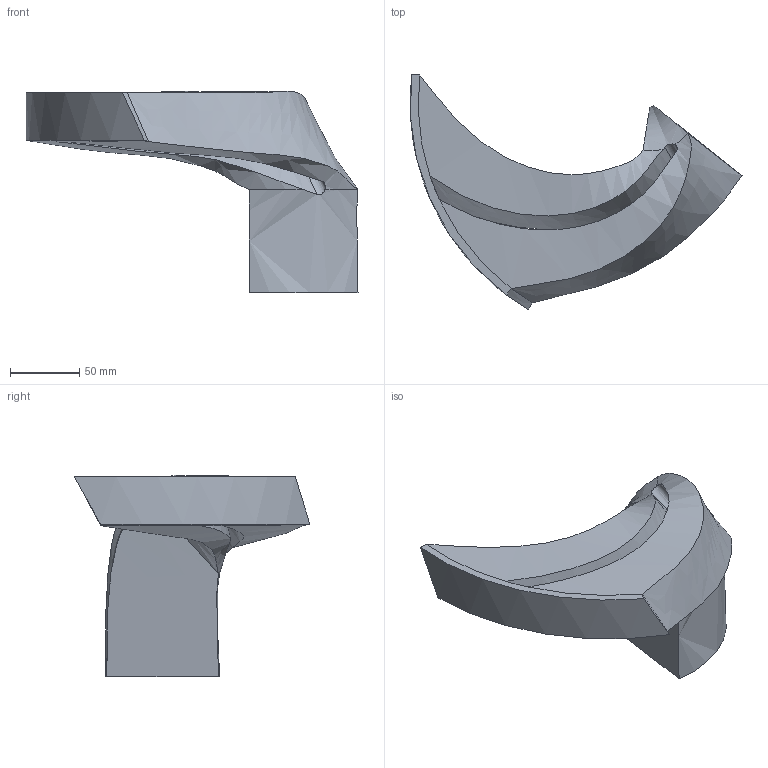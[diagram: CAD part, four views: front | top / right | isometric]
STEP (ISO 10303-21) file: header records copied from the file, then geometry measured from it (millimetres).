
FILE_DESCRIPTION( ( 'STEP Version 203' ), '1' );
FILE_NAME( 'C:/Users/Administrator/Desktop/KanalMiedzylo.stp', '04/03/17 18:11:41', ( 'Administrator' ), ( ' ' ), 'PSStep 17.0.49', 'DesignModeler STEP Output', ' ' );
FILE_SCHEMA( ( 'CONFIG_CONTROL_DESIGN' ) );
Length unit declared in the file: metre
Products named in the file (1): 1
Bounding box: 239.83 x 170.38 x 145.29 mm (x, y, z)
Volume: 920815.4 mm3; surface area: 100070.9 mm2
Topology: 1 solids, 1 shells, 20 faces, 48 edges, 28 vertices
Faces by surface type: bspline 17, cylinder 2, plane 1
Entity records: 8484 total; most frequent: CARTESIAN_POINT 8090, ORIENTED_EDGE 96, EDGE_CURVE 48, DIRECTION 36, B_SPLINE_CURVE_WITH_KNOTS 34, VERTEX_POINT 28, ADVANCED_FACE 20, FACE_OUTER_BOUND 20
